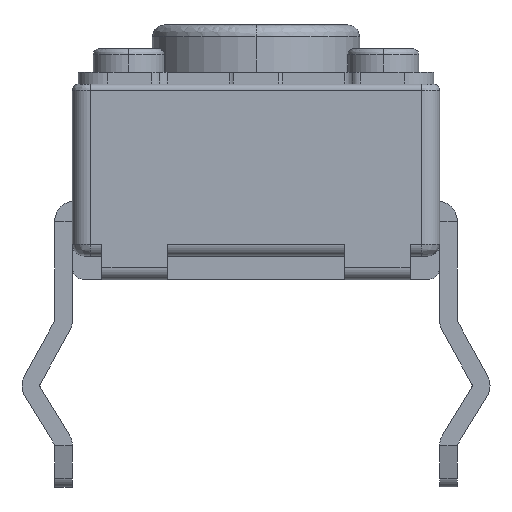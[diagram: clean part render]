
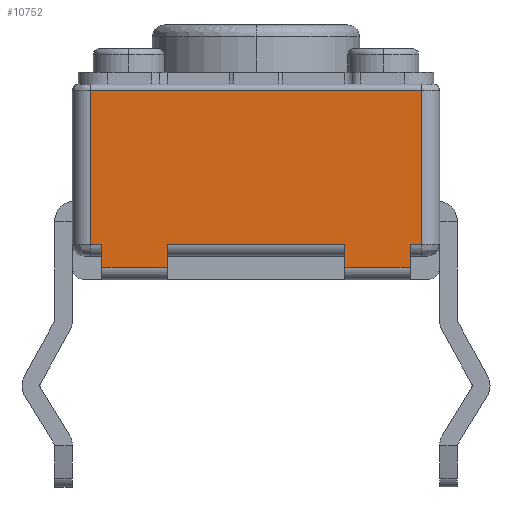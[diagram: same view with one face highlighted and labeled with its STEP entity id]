
A CAD part, front view. The second image highlights one B-rep face of the part: STEP entity #10752.
In plain terms, the highlighted planar face has unit normal (0, -1, 0).
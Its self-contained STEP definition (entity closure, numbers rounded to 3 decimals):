
#99 = DIRECTION ( 'NONE',  ( 0., 0., -1. ) ) ;
#100 = VECTOR ( 'NONE', #99, 1000. ) ;
#101 = CARTESIAN_POINT ( 'NONE',  ( 2.8, -3.1, 3.3 ) ) ;
#102 = LINE ( 'NONE', #101, #100 ) ;
#139 = FACE_OUTER_BOUND ( 'NONE', #10753, .T. ) ;
#168 = DIRECTION ( 'NONE',  ( 0., 0., 1. ) ) ;
#169 = DIRECTION ( 'NONE',  ( 0., 1., 0. ) ) ;
#170 = CARTESIAN_POINT ( 'NONE',  ( 0., -3.1, 3.3 ) ) ;
#171 = AXIS2_PLACEMENT_3D ( 'NONE', #170, #169, #168 ) ;
#172 = PLANE ( 'NONE',  #171 ) ;
#307 = DIRECTION ( 'NONE',  ( 0., 0., 1. ) ) ;
#308 = VECTOR ( 'NONE', #307, 1000. ) ;
#309 = CARTESIAN_POINT ( 'NONE',  ( -2.8, -3.1, 3.3 ) ) ;
#315 = LINE ( 'NONE', #309, #308 ) ;
#1758 = CARTESIAN_POINT ( 'NONE',  ( 2.8, -3.1, 0.6 ) ) ;
#1801 = DIRECTION ( 'NONE',  ( -1., 0., 0. ) ) ;
#1802 = VECTOR ( 'NONE', #1801, 1000. ) ;
#1803 = CARTESIAN_POINT ( 'NONE',  ( 0., -3.1, 0.6 ) ) ;
#1804 = LINE ( 'NONE', #1803, #1802 ) ;
#4284 = DIRECTION ( 'NONE',  ( -1., 0., 0. ) ) ;
#4286 = VECTOR ( 'NONE', #4284, 1000. ) ;
#4288 = CARTESIAN_POINT ( 'NONE',  ( 0., -3.1, 0.2 ) ) ;
#4290 = LINE ( 'NONE', #4288, #4286 ) ;
#6743 = CARTESIAN_POINT ( 'NONE',  ( 2.6, -3.1, 0.2 ) ) ;
#6744 = DIRECTION ( 'NONE',  ( 0., 0., -1. ) ) ;
#6745 = VECTOR ( 'NONE', #6744, 1000. ) ;
#6746 = CARTESIAN_POINT ( 'NONE',  ( 2.6, -3.1, 0.4 ) ) ;
#6747 = LINE ( 'NONE', #6746, #6745 ) ;
#7288 = CARTESIAN_POINT ( 'NONE',  ( 2.8, -3.1, 3.2 ) ) ;
#7289 = DIRECTION ( 'NONE',  ( 1., 0., 0. ) ) ;
#7290 = VECTOR ( 'NONE', #7289, 1000. ) ;
#7291 = CARTESIAN_POINT ( 'NONE',  ( 0., -3.1, 3.2 ) ) ;
#7292 = LINE ( 'NONE', #7291, #7290 ) ;
#7293 = CARTESIAN_POINT ( 'NONE',  ( -2.8, -3.1, 3.2 ) ) ;
#7347 = CARTESIAN_POINT ( 'NONE',  ( 2.6, -3.1, 0.6 ) ) ;
#7471 = DIRECTION ( 'NONE',  ( -1., 0., 0. ) ) ;
#7472 = VECTOR ( 'NONE', #7471, 1000. ) ;
#7473 = CARTESIAN_POINT ( 'NONE',  ( 0., -3.1, 0.2 ) ) ;
#7474 = LINE ( 'NONE', #7473, #7472 ) ;
#7501 = DIRECTION ( 'NONE',  ( -1., 0., 0. ) ) ;
#7502 = VECTOR ( 'NONE', #7501, 1000. ) ;
#7503 = CARTESIAN_POINT ( 'NONE',  ( 0., -3.1, 0.6 ) ) ;
#7509 = LINE ( 'NONE', #7503, #7502 ) ;
#7527 = CARTESIAN_POINT ( 'NONE',  ( -2.8, -3.1, 0.6 ) ) ;
#7740 = VECTOR ( 'NONE', #7799, 1000. ) ;
#7741 = CARTESIAN_POINT ( 'NONE',  ( 0., -3.1, 0.6 ) ) ;
#7743 = LINE ( 'NONE', #7741, #7740 ) ;
#7799 = DIRECTION ( 'NONE',  ( -1., 0., 0. ) ) ;
#8056 = DIRECTION ( 'NONE',  ( 0., 0., -1. ) ) ;
#8057 = VECTOR ( 'NONE', #8056, 1000. ) ;
#8058 = CARTESIAN_POINT ( 'NONE',  ( -1.5, -3.1, 0.4 ) ) ;
#8059 = LINE ( 'NONE', #8058, #8057 ) ;
#8697 = CARTESIAN_POINT ( 'NONE',  ( -2.6, -3.1, 0.6 ) ) ;
#8738 = DIRECTION ( 'NONE',  ( 0., 0., 1. ) ) ;
#8739 = VECTOR ( 'NONE', #8738, 1000. ) ;
#8740 = CARTESIAN_POINT ( 'NONE',  ( -2.6, -3.1, 0.4 ) ) ;
#8741 = LINE ( 'NONE', #8740, #8739 ) ;
#8742 = CARTESIAN_POINT ( 'NONE',  ( -2.6, -3.1, 0.2 ) ) ;
#9697 = VERTEX_POINT ( 'NONE', #12699 ) ;
#9699 = EDGE_CURVE ( 'NONE', #9697, #9810, #12698, .T. ) ;
#9810 = VERTEX_POINT ( 'NONE', #12956 ) ;
#9824 = VERTEX_POINT ( 'NONE', #13024 ) ;
#9829 = VERTEX_POINT ( 'NONE', #13023 ) ;
#9853 = EDGE_CURVE ( 'NONE', #9824, #9829, #8059, .T. ) ;
#10226 = VERTEX_POINT ( 'NONE', #8697 ) ;
#10233 = VERTEX_POINT ( 'NONE', #8742 ) ;
#10235 = EDGE_CURVE ( 'NONE', #10233, #10226, #8741, .T. ) ;
#10332 = EDGE_CURVE ( 'NONE', #10559, #10333, #6747, .T. ) ;
#10333 = VERTEX_POINT ( 'NONE', #6743 ) ;
#10528 = VERTEX_POINT ( 'NONE', #7293 ) ;
#10530 = EDGE_CURVE ( 'NONE', #10528, #10531, #7292, .T. ) ;
#10531 = VERTEX_POINT ( 'NONE', #7288 ) ;
#10546 = ORIENTED_EDGE ( 'NONE', *, *, #10589, .F. ) ;
#10559 = VERTEX_POINT ( 'NONE', #7347 ) ;
#10589 = EDGE_CURVE ( 'NONE', #9829, #10233, #7474, .T. ) ;
#10591 = EDGE_CURVE ( 'NONE', #9810, #9824, #7509, .T. ) ;
#10596 = VERTEX_POINT ( 'NONE', #7527 ) ;
#10684 = EDGE_CURVE ( 'NONE', #10226, #10596, #7743, .T. ) ;
#10728 = ORIENTED_EDGE ( 'NONE', *, *, #10730, .F. ) ;
#10730 = EDGE_CURVE ( 'NONE', #10531, #11239, #102, .T. ) ;
#10731 = ORIENTED_EDGE ( 'NONE', *, *, #10684, .F. ) ;
#10732 = ORIENTED_EDGE ( 'NONE', *, *, #10798, .F. ) ;
#10733 = ORIENTED_EDGE ( 'NONE', *, *, #11243, .F. ) ;
#10734 = ORIENTED_EDGE ( 'NONE', *, *, #10530, .F. ) ;
#10752 = ADVANCED_FACE ( 'NONE', ( #139 ), #172, .F. ) ;
#10753 = EDGE_LOOP ( 'NONE', ( #10758, #10759, #10733, #10728, #10734, #10732, #10731, #10805, #10546, #10755, #10756, #10757 ) ) ;
#10755 = ORIENTED_EDGE ( 'NONE', *, *, #9853, .F. ) ;
#10756 = ORIENTED_EDGE ( 'NONE', *, *, #10591, .F. ) ;
#10757 = ORIENTED_EDGE ( 'NONE', *, *, #9699, .F. ) ;
#10758 = ORIENTED_EDGE ( 'NONE', *, *, #11564, .F. ) ;
#10759 = ORIENTED_EDGE ( 'NONE', *, *, #10332, .F. ) ;
#10798 = EDGE_CURVE ( 'NONE', #10596, #10528, #315, .T. ) ;
#10805 = ORIENTED_EDGE ( 'NONE', *, *, #10235, .F. ) ;
#11239 = VERTEX_POINT ( 'NONE', #1758 ) ;
#11243 = EDGE_CURVE ( 'NONE', #11239, #10559, #1804, .T. ) ;
#11564 = EDGE_CURVE ( 'NONE', #10333, #9697, #4290, .T. ) ;
#12695 = DIRECTION ( 'NONE',  ( 0., 0., 1. ) ) ;
#12696 = VECTOR ( 'NONE', #12695, 1000. ) ;
#12697 = CARTESIAN_POINT ( 'NONE',  ( 1.5, -3.1, 0.4 ) ) ;
#12698 = LINE ( 'NONE', #12697, #12696 ) ;
#12699 = CARTESIAN_POINT ( 'NONE',  ( 1.5, -3.1, 0.2 ) ) ;
#12956 = CARTESIAN_POINT ( 'NONE',  ( 1.5, -3.1, 0.6 ) ) ;
#13023 = CARTESIAN_POINT ( 'NONE',  ( -1.5, -3.1, 0.2 ) ) ;
#13024 = CARTESIAN_POINT ( 'NONE',  ( -1.5, -3.1, 0.6 ) ) ;
